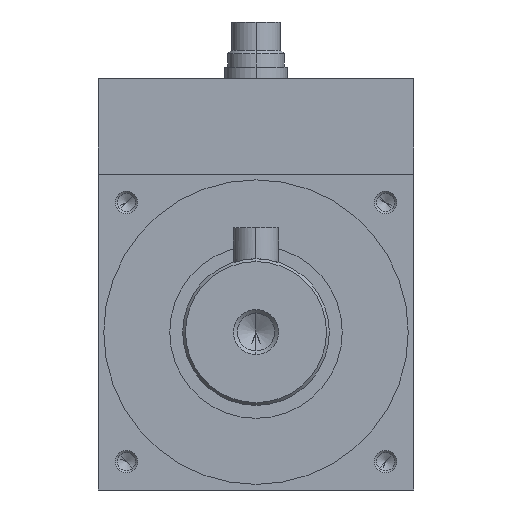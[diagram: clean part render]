
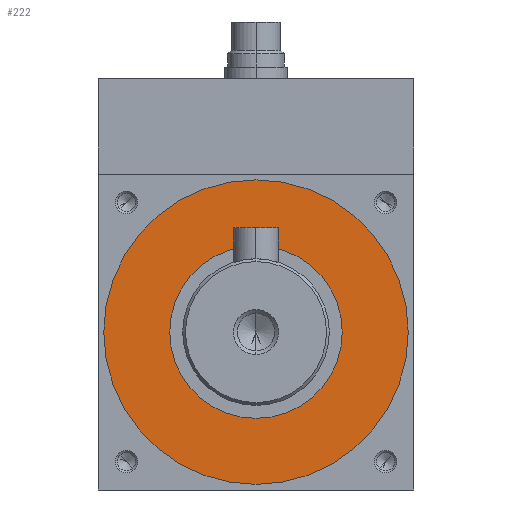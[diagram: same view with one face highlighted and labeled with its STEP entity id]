
A CAD part, left-side view. The second image highlights one B-rep face of the part: STEP entity #222.
In plain terms, the highlighted planar face has unit normal (-1, 0, 0).
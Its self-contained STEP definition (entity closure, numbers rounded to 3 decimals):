
#222=ADVANCED_FACE('',(#595,#596),#597,.T.);
#595=FACE_BOUND('',#1048,.T.);
#596=FACE_OUTER_BOUND('',#1049,.T.);
#597=PLANE('',#1050);
#1048=EDGE_LOOP('',(#2212,#2213));
#1049=EDGE_LOOP('',(#2214,#2215));
#1050=AXIS2_PLACEMENT_3D('',#2216,#2217,#2218);
#2212=ORIENTED_EDGE('',*,*,#3007,.T.);
#2213=ORIENTED_EDGE('',*,*,#2772,.T.);
#2214=ORIENTED_EDGE('',*,*,#3010,.T.);
#2215=ORIENTED_EDGE('',*,*,#2762,.T.);
#2216=CARTESIAN_POINT('',(46.0,0.0,0.0));
#2217=DIRECTION('',(-1.0,0.0,0.));
#2218=DIRECTION('',(0.,0.0,1.0));
#2762=EDGE_CURVE('',#3284,#3281,#3285,.T.);
#2772=EDGE_CURVE('',#3298,#3302,#3304,.T.);
#3007=EDGE_CURVE('',#3302,#3298,#3683,.T.);
#3010=EDGE_CURVE('',#3281,#3284,#3686,.T.);
#3281=VERTEX_POINT('',#4167);
#3284=VERTEX_POINT('',#4171);
#3285=CIRCLE('',#4172,27.0);
#3298=VERTEX_POINT('',#4188);
#3302=VERTEX_POINT('',#4193);
#3304=CIRCLE('',#4196,15.294);
#3683=CIRCLE('',#4681,15.294);
#3686=CIRCLE('',#4684,27.0);
#4167=CARTESIAN_POINT('',(46.0,0.0,-27.0));
#4171=CARTESIAN_POINT('',(46.0,0.,27.0));
#4172=AXIS2_PLACEMENT_3D('',#4984,#4985,#4986);
#4188=CARTESIAN_POINT('',(46.0,0.,-15.294));
#4193=CARTESIAN_POINT('',(46.0,0.,15.294));
#4196=AXIS2_PLACEMENT_3D('',#5004,#5005,#5006);
#4681=AXIS2_PLACEMENT_3D('',#5497,#5498,#5499);
#4684=AXIS2_PLACEMENT_3D('',#5506,#5507,#5508);
#4984=CARTESIAN_POINT('',(46.0,0.0,0.0));
#4985=DIRECTION('',(-1.0,0.0,0.));
#4986=DIRECTION('',(0.,0.0,-1.0));
#5004=CARTESIAN_POINT('',(46.0,0.0,0.));
#5005=DIRECTION('',(1.0,0.0,0.));
#5006=DIRECTION('',(0.,0.0,-1.0));
#5497=CARTESIAN_POINT('',(46.0,0.0,0.));
#5498=DIRECTION('',(1.0,0.0,0.));
#5499=DIRECTION('',(0.,0.0,-1.0));
#5506=CARTESIAN_POINT('',(46.0,0.0,0.0));
#5507=DIRECTION('',(-1.0,0.0,0.));
#5508=DIRECTION('',(0.,0.0,-1.0));
